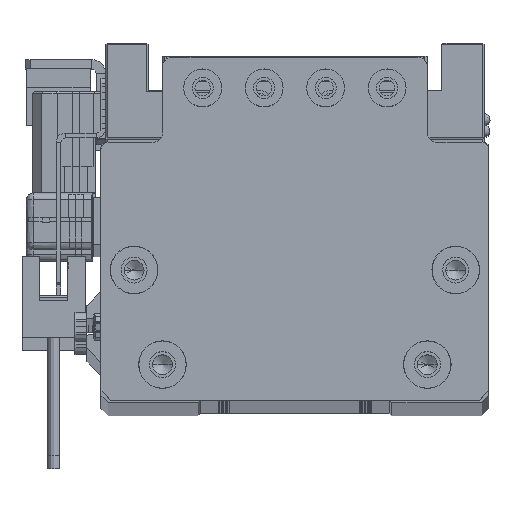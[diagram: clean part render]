
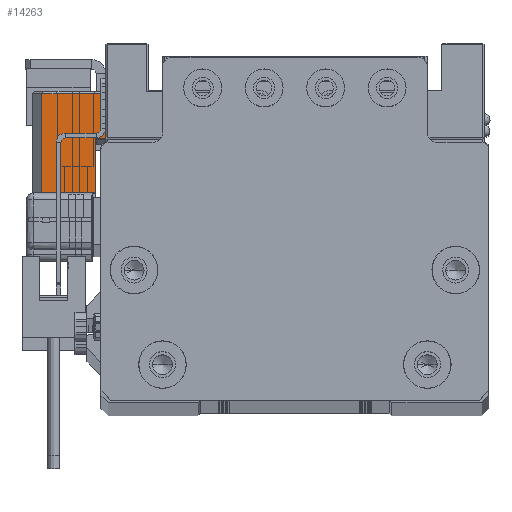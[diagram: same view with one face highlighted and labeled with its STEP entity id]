
A CAD part, top view. The second image highlights one B-rep face of the part: STEP entity #14263.
In plain terms, the highlighted planar face has unit normal (0, 0, 1) as drawn and (1, 0, 0) by its records, which use the part's own axes.
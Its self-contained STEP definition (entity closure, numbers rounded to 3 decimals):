
#752 = ORIENTED_EDGE ( 'NONE', *, *, #20527, .T. ) ;
#1561 = LINE ( 'NONE', #68353, #46461 ) ;
#1606 = AXIS2_PLACEMENT_3D ( 'NONE', #24198, #28545, #40441 ) ;
#3583 = LINE ( 'NONE', #47638, #18386 ) ;
#3690 = CARTESIAN_POINT ( 'NONE',  ( 17., 10.25, -15.5 ) ) ;
#5151 = ORIENTED_EDGE ( 'NONE', *, *, #22586, .T. ) ;
#8404 = CARTESIAN_POINT ( 'NONE',  ( 17., -10.75, -13.3 ) ) ;
#9968 = CARTESIAN_POINT ( 'NONE',  ( 17., 0.75, -15.5 ) ) ;
#12645 = FACE_OUTER_BOUND ( 'NONE', #57438, .T. ) ;
#12654 = VECTOR ( 'NONE', #45837, 1000. ) ;
#14263 = ADVANCED_FACE ( 'NONE', ( #12645 ), #18429, .T. ) ;
#17356 = VECTOR ( 'NONE', #31283, 1000. ) ;
#18386 = VECTOR ( 'NONE', #58489, 1000. ) ;
#18429 = PLANE ( 'NONE',  #1606 ) ;
#20527 = EDGE_CURVE ( 'NONE', #65509, #56170, #51237, .T. ) ;
#21695 = VERTEX_POINT ( 'NONE', #44781 ) ;
#22586 = EDGE_CURVE ( 'NONE', #57403, #65509, #29092, .T. ) ;
#23516 = CARTESIAN_POINT ( 'NONE',  ( 17., -10.75, -2. ) ) ;
#23855 = CARTESIAN_POINT ( 'NONE',  ( 17., -10.75, -13.3 ) ) ;
#24198 = CARTESIAN_POINT ( 'NONE',  ( 17., -10.75, -15.5 ) ) ;
#25484 = VERTEX_POINT ( 'NONE', #23855 ) ;
#27660 = EDGE_CURVE ( 'NONE', #25484, #60923, #3583, .T. ) ;
#28545 = DIRECTION ( 'NONE',  ( 1., 0., 0. ) ) ;
#29001 = EDGE_CURVE ( 'NONE', #56170, #60923, #48896, .T. ) ;
#29092 = LINE ( 'NONE', #56509, #59890 ) ;
#30103 = DIRECTION ( 'NONE',  ( 0., -1., 0. ) ) ;
#31283 = DIRECTION ( 'NONE',  ( 0., -1., 0. ) ) ;
#31940 = CARTESIAN_POINT ( 'NONE',  ( 17., 10.25, -2. ) ) ;
#34780 = ORIENTED_EDGE ( 'NONE', *, *, #36205, .F. ) ;
#36205 = EDGE_CURVE ( 'NONE', #21695, #25484, #40200, .T. ) ;
#40200 = LINE ( 'NONE', #8404, #54781 ) ;
#40441 = DIRECTION ( 'NONE',  ( 0., 0., -1. ) ) ;
#42221 = ORIENTED_EDGE ( 'NONE', *, *, #27660, .F. ) ;
#44680 = ORIENTED_EDGE ( 'NONE', *, *, #29001, .T. ) ;
#44781 = CARTESIAN_POINT ( 'NONE',  ( 17., 0.75, -13.3 ) ) ;
#45621 = DIRECTION ( 'NONE',  ( 0., 0., 1. ) ) ;
#45837 = DIRECTION ( 'NONE',  ( 0., 0., 1. ) ) ;
#46461 = VECTOR ( 'NONE', #45621, 1000. ) ;
#47638 = CARTESIAN_POINT ( 'NONE',  ( 17., -10.75, -15.5 ) ) ;
#48558 = ORIENTED_EDGE ( 'NONE', *, *, #63552, .F. ) ;
#48896 = LINE ( 'NONE', #60097, #17356 ) ;
#50165 = CARTESIAN_POINT ( 'NONE',  ( 17., 10.25, -15.5 ) ) ;
#51237 = LINE ( 'NONE', #50165, #12654 ) ;
#54781 = VECTOR ( 'NONE', #30103, 1000. ) ;
#56170 = VERTEX_POINT ( 'NONE', #31940 ) ;
#56509 = CARTESIAN_POINT ( 'NONE',  ( 17., -10.75, -15.5 ) ) ;
#57403 = VERTEX_POINT ( 'NONE', #9968 ) ;
#57438 = EDGE_LOOP ( 'NONE', ( #5151, #752, #44680, #42221, #34780, #48558 ) ) ;
#57951 = DIRECTION ( 'NONE',  ( 0., 1., 0. ) ) ;
#58489 = DIRECTION ( 'NONE',  ( 0., 0., 1. ) ) ;
#59890 = VECTOR ( 'NONE', #57951, 1000. ) ;
#60097 = CARTESIAN_POINT ( 'NONE',  ( 17., -10.75, -2. ) ) ;
#60923 = VERTEX_POINT ( 'NONE', #23516 ) ;
#63552 = EDGE_CURVE ( 'NONE', #57403, #21695, #1561, .T. ) ;
#65509 = VERTEX_POINT ( 'NONE', #3690 ) ;
#68353 = CARTESIAN_POINT ( 'NONE',  ( 17., 0.75, -15.5 ) ) ;
